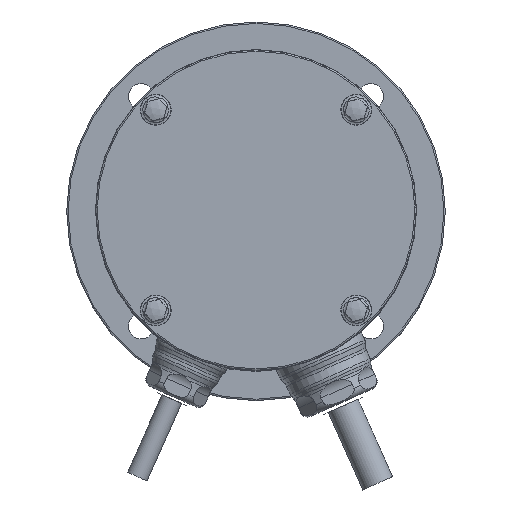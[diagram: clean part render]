
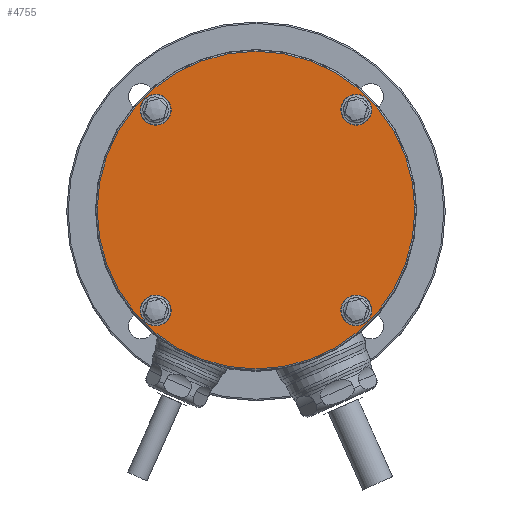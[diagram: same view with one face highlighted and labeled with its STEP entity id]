
A CAD part, top view. The second image highlights one B-rep face of the part: STEP entity #4755.
In plain terms, the highlighted planar face has unit normal (0, 0, 1).
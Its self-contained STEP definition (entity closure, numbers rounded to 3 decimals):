
#723=FACE_BOUND('',#1230,.T.);
#724=FACE_BOUND('',#1231,.T.);
#725=FACE_BOUND('',#1232,.T.);
#726=FACE_BOUND('',#1233,.T.);
#784=PLANE('',#5282);
#968=FACE_OUTER_BOUND('',#1229,.T.);
#1229=EDGE_LOOP('',(#3764,#3765));
#1230=EDGE_LOOP('',(#3766));
#1231=EDGE_LOOP('',(#3767));
#1232=EDGE_LOOP('',(#3768));
#1233=EDGE_LOOP('',(#3769));
#1406=CIRCLE('',#4985,5.45);
#1440=CIRCLE('',#5048,5.45);
#1578=CIRCLE('',#5283,56.2);
#1579=CIRCLE('',#5284,56.2);
#1580=CIRCLE('',#5285,5.45);
#1581=CIRCLE('',#5286,5.45);
#1769=VERTEX_POINT('',#7113);
#1826=VERTEX_POINT('',#7494);
#2022=VERTEX_POINT('',#8884);
#2023=VERTEX_POINT('',#8885);
#2024=VERTEX_POINT('',#8888);
#2025=VERTEX_POINT('',#8890);
#2272=EDGE_CURVE('',#1769,#1769,#1406,.T.);
#2357=EDGE_CURVE('',#1826,#1826,#1440,.T.);
#2643=EDGE_CURVE('',#2022,#2023,#1578,.T.);
#2644=EDGE_CURVE('',#2023,#2022,#1579,.T.);
#2645=EDGE_CURVE('',#2024,#2024,#1580,.T.);
#2646=EDGE_CURVE('',#2025,#2025,#1581,.T.);
#3764=ORIENTED_EDGE('',*,*,#2643,.F.);
#3765=ORIENTED_EDGE('',*,*,#2644,.F.);
#3766=ORIENTED_EDGE('',*,*,#2645,.T.);
#3767=ORIENTED_EDGE('',*,*,#2272,.T.);
#3768=ORIENTED_EDGE('',*,*,#2646,.T.);
#3769=ORIENTED_EDGE('',*,*,#2357,.T.);
#4755=ADVANCED_FACE('',(#968,#723,#724,#725,#726),#784,.T.);
#4985=AXIS2_PLACEMENT_3D('',#7115,#5699,#5700);
#5048=AXIS2_PLACEMENT_3D('',#7496,#5852,#5853);
#5282=AXIS2_PLACEMENT_3D('',#8883,#6396,#6397);
#5283=AXIS2_PLACEMENT_3D('',#8886,#6398,#6399);
#5284=AXIS2_PLACEMENT_3D('',#8887,#6400,#6401);
#5285=AXIS2_PLACEMENT_3D('',#8889,#6402,#6403);
#5286=AXIS2_PLACEMENT_3D('',#8891,#6404,#6405);
#5699=DIRECTION('center_axis',(0.,0.,
-1.));
#5700=DIRECTION('ref_axis',(0.97,0.245,0.));
#5852=DIRECTION('center_axis',(0.,0.,
-1.));
#5853=DIRECTION('ref_axis',(0.97,0.245,0.));
#6396=DIRECTION('center_axis',(0.,0.,
1.));
#6397=DIRECTION('ref_axis',(-1.,0.,0.));
#6398=DIRECTION('center_axis',(0.,0.,
-1.));
#6399=DIRECTION('ref_axis',(0.,1.,0.));
#6400=DIRECTION('center_axis',(0.,0.,
-1.));
#6401=DIRECTION('ref_axis',(0.,1.,0.));
#6402=DIRECTION('center_axis',(0.,0.,
-1.));
#6403=DIRECTION('ref_axis',(0.97,0.245,0.));
#6404=DIRECTION('center_axis',(0.,0.,
-1.));
#6405=DIRECTION('ref_axis',(0.97,0.245,0.));
#7113=CARTESIAN_POINT('',(30.212,-36.83,258.));
#7115=CARTESIAN_POINT('Origin',(35.497,-35.497,258.));
#7494=CARTESIAN_POINT('',(30.212,34.164,258.));
#7496=CARTESIAN_POINT('Origin',(35.497,35.497,258.));
#8883=CARTESIAN_POINT('Origin',(0.,-56.7,
258.));
#8884=CARTESIAN_POINT('',(0.,-56.2,258.));
#8885=CARTESIAN_POINT('',(-56.2,0.,258.));
#8886=CARTESIAN_POINT('Origin',(0.,0.,
258.));
#8887=CARTESIAN_POINT('Origin',(0.,0.,
258.));
#8888=CARTESIAN_POINT('',(-40.781,-36.83,258.));
#8889=CARTESIAN_POINT('Origin',(-35.497,-35.497,258.));
#8890=CARTESIAN_POINT('',(-40.781,34.164,258.));
#8891=CARTESIAN_POINT('Origin',(-35.497,35.497,258.));
